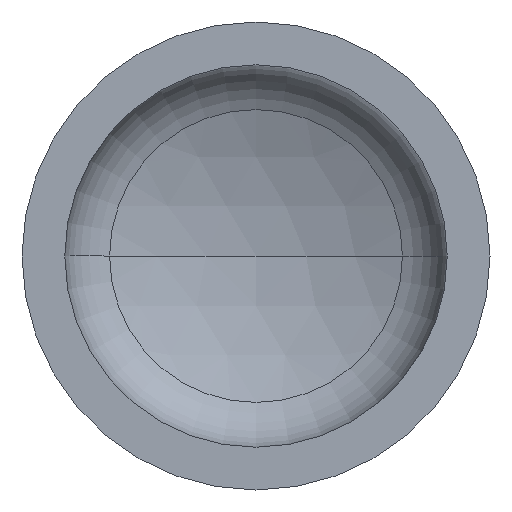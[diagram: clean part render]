
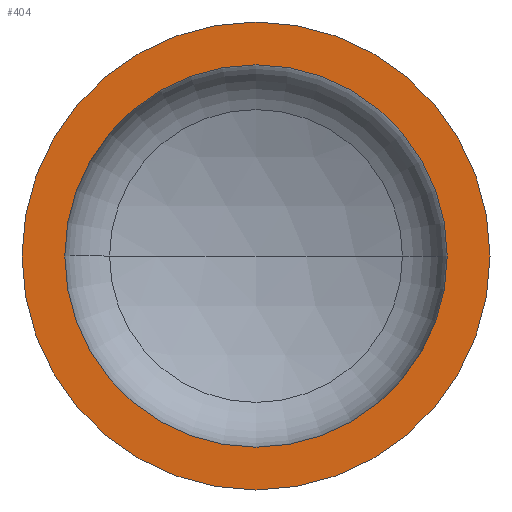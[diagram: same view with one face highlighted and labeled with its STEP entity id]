
A CAD part, front view. The second image highlights one B-rep face of the part: STEP entity #404.
In plain terms, the highlighted planar face has unit normal (0, -1, 0).
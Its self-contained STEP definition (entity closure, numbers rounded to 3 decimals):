
#2 = AXIS2_PLACEMENT_3D ( 'NONE', #361, #213, #386 ) ;
#6 = AXIS2_PLACEMENT_3D ( 'NONE', #212, #385, #238 ) ;
#13 = ORIENTED_EDGE ( 'NONE', *, *, #397, .F. ) ;
#41 = CIRCLE ( 'NONE', #2, 286. ) ;
#44 = ORIENTED_EDGE ( 'NONE', *, *, #378, .T. ) ;
#50 = VERTEX_POINT ( 'NONE', #323 ) ;
#65 = VERTEX_POINT ( 'NONE', #249 ) ;
#88 = EDGE_LOOP ( 'NONE', ( #44, #89 ) ) ;
#89 = ORIENTED_EDGE ( 'NONE', *, *, #129, .T. ) ;
#104 = EDGE_LOOP ( 'NONE', ( #183, #13 ) ) ;
#109 = AXIS2_PLACEMENT_3D ( 'NONE', #178, #173, #172 ) ;
#113 = AXIS2_PLACEMENT_3D ( 'NONE', #198, #197, #153 ) ;
#120 = VERTEX_POINT ( 'NONE', #231 ) ;
#121 = VERTEX_POINT ( 'NONE', #223 ) ;
#129 = EDGE_CURVE ( 'NONE', #121, #65, #177, .T. ) ;
#130 = EDGE_CURVE ( 'NONE', #120, #50, #298, .T. ) ;
#153 = DIRECTION ( 'NONE',  ( 1., 0., 0. ) ) ;
#166 = FACE_BOUND ( 'NONE', #104, .T. ) ;
#168 = CARTESIAN_POINT ( 'NONE',  ( -350., 0., 0. ) ) ;
#172 = DIRECTION ( 'NONE',  ( 1., 0., 0. ) ) ;
#173 = DIRECTION ( 'NONE',  ( 0., -1., 0. ) ) ;
#177 = CIRCLE ( 'NONE', #113, 350. ) ;
#178 = CARTESIAN_POINT ( 'NONE',  ( 0., 0., 0. ) ) ;
#183 = ORIENTED_EDGE ( 'NONE', *, *, #130, .F. ) ;
#197 = DIRECTION ( 'NONE',  ( 0., -1., 0. ) ) ;
#198 = CARTESIAN_POINT ( 'NONE',  ( 0., 0., 0. ) ) ;
#212 = CARTESIAN_POINT ( 'NONE',  ( 0., 0., 0. ) ) ;
#213 = DIRECTION ( 'NONE',  ( 0., -1., 0. ) ) ;
#223 = CARTESIAN_POINT ( 'NONE',  ( -350., 0., 0. ) ) ;
#231 = CARTESIAN_POINT ( 'NONE',  ( 286., 0., 0. ) ) ;
#235 = CIRCLE ( 'NONE', #6, 350. ) ;
#238 = DIRECTION ( 'NONE',  ( 1., 0., 0. ) ) ;
#240 = DIRECTION ( 'NONE',  ( 0., 1., 0. ) ) ;
#249 = CARTESIAN_POINT ( 'NONE',  ( 350., 0., 0. ) ) ;
#268 = PLANE ( 'NONE',  #295 ) ;
#295 = AXIS2_PLACEMENT_3D ( 'NONE', #168, #240, #406 ) ;
#298 = CIRCLE ( 'NONE', #109, 286. ) ;
#323 = CARTESIAN_POINT ( 'NONE',  ( -286., 0., 0. ) ) ;
#349 = FACE_OUTER_BOUND ( 'NONE', #88, .T. ) ;
#361 = CARTESIAN_POINT ( 'NONE',  ( 0., 0., 0. ) ) ;
#378 = EDGE_CURVE ( 'NONE', #65, #121, #235, .T. ) ;
#385 = DIRECTION ( 'NONE',  ( 0., -1., 0. ) ) ;
#386 = DIRECTION ( 'NONE',  ( 1., 0., 0. ) ) ;
#397 = EDGE_CURVE ( 'NONE', #50, #120, #41, .T. ) ;
#404 = ADVANCED_FACE ( 'NONE', ( #166, #349 ), #268, .F. ) ;
#406 = DIRECTION ( 'NONE',  ( -1., 0., 0. ) ) ;
